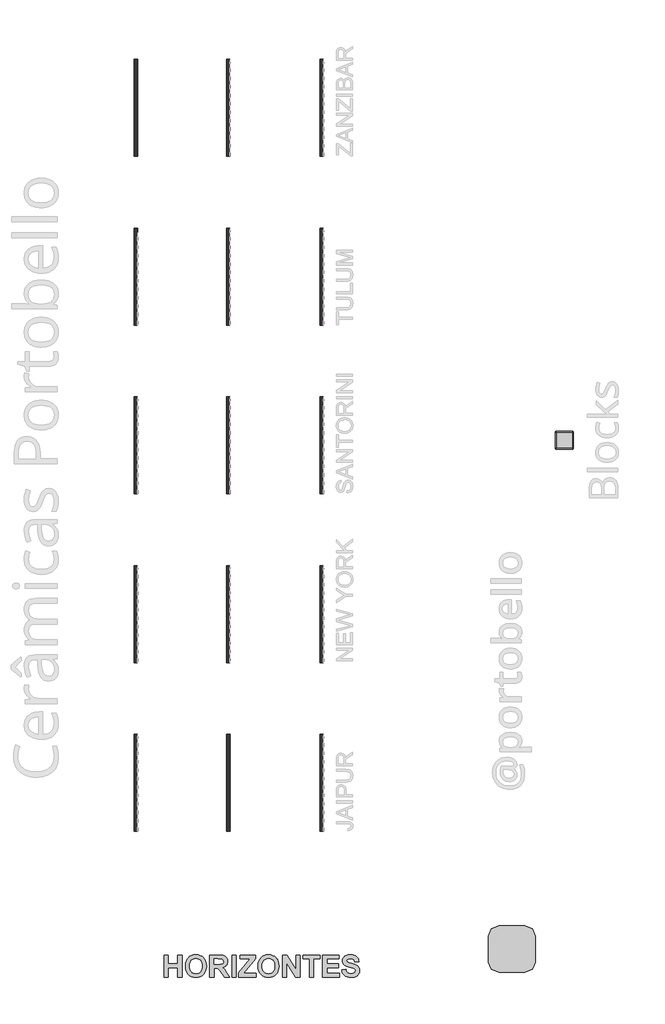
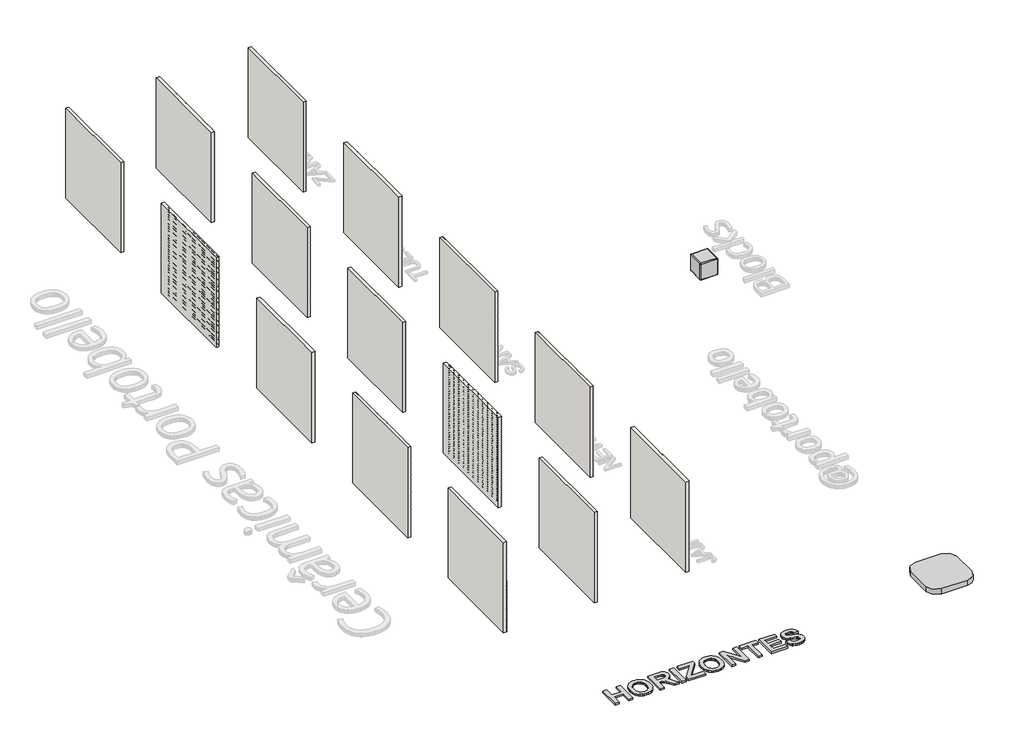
# One storey, part 1 of 45: 90 proxies, 15 walls, 1 furniture element.
"""IFC4 building model written with IfcOpenShell, lengths in millimetres."""

from ifc_helpers import new_model, si_unit, origin, origin_with_axes, place, context, project, spatial, polyline, outline, extrude, transform, mapped, element, save
from components import generic_models_ab0f2c30, generic_models_9f50cdec, branco_22256ad2

model = new_model("IFC4")

# Units and contexts
model_context = context("Model", 3, world=origin())
ifc_project = project(units=[si_unit("LENGTHUNIT", "METRE", prefix="MILLI")], contexts=[model_context])

# Site, building, storey
site = spatial("IfcSite", under=ifc_project)
building = spatial("IfcBuilding", under=site)
storey = spatial("IfcBuildingStorey", under=building, Name="PORTOBELLO - SHOWROOM", Elevation=0.0)

# Proxies
placement = place(None, origin())
generic_models_shape = generic_models_ab0f2c30(model_context)
element("IfcBuildingElementProxy", 1, Name="PBSHOP - HORIZONTES JAIPUR 6,5X23 : JAIPUR CHANDRA", ObjectType="PBSHOP - HORIZONTES JAIPUR 6,5X23 : JAIPUR CHANDRA", at=placement, inside=storey, context=model_context, shape_type="MappedRepresentation", body=[
    mapped(generic_models_shape, transform((63939.1036979, 1103.9760255, 34.5), x_axis=(0.0, 0.0, 1.0), y_axis=(0.0, -1.0, 0.0), z_axis=(1.0, 0.0, 0.0))),
])
element("IfcBuildingElementProxy", 2, Name="PBSHOP - HORIZONTES JAIPUR 6,5X23 : JAIPUR CHANDRA", ObjectType="PBSHOP - HORIZONTES JAIPUR 6,5X23 : JAIPUR CHANDRA", at=placement, inside=storey, context=model_context, shape_type="MappedRepresentation", body=[
    mapped(generic_models_shape, transform((63939.1036979, 1337.9760255, 34.5), x_axis=(0.0, 0.0, 1.0), y_axis=(0.0, -1.0, 0.0), z_axis=(1.0, 0.0, 0.0))),
])
element("IfcBuildingElementProxy", 3, Name="PBSHOP - HORIZONTES JAIPUR 6,5X23 : JAIPUR CHANDRA", ObjectType="PBSHOP - HORIZONTES JAIPUR 6,5X23 : JAIPUR CHANDRA", at=placement, inside=storey, context=model_context, shape_type="MappedRepresentation", body=[
    mapped(generic_models_shape, transform((63939.1036979, 1571.9760255, 34.5), x_axis=(0.0, 0.0, 1.0), y_axis=(0.0, -1.0, 0.0), z_axis=(1.0, 0.0, 0.0))),
])
element("IfcBuildingElementProxy", 4, Name="PBSHOP - HORIZONTES JAIPUR 6,5X23 : JAIPUR CHANDRA", ObjectType="PBSHOP - HORIZONTES JAIPUR 6,5X23 : JAIPUR CHANDRA", at=placement, inside=storey, context=model_context, shape_type="MappedRepresentation", body=[
    mapped(generic_models_shape, transform((63939.1036979, 1805.9760255, 34.5), x_axis=(0.0, 0.0, 1.0), y_axis=(0.0, -1.0, 0.0), z_axis=(1.0, 0.0, 0.0))),
])
element("IfcBuildingElementProxy", 5, Name="PBSHOP - HORIZONTES JAIPUR 6,5X23 : JAIPUR CHANDRA", ObjectType="PBSHOP - HORIZONTES JAIPUR 6,5X23 : JAIPUR CHANDRA", at=placement, inside=storey, context=model_context, shape_type="MappedRepresentation", body=[
    mapped(generic_models_shape, transform((63939.1036979, 1103.9760255, 103.5), x_axis=(0.0, 0.0, 1.0), y_axis=(0.0, -1.0, 0.0), z_axis=(1.0, 0.0, 0.0))),
])
element("IfcBuildingElementProxy", 6, Name="PBSHOP - HORIZONTES JAIPUR 6,5X23 : JAIPUR CHANDRA", ObjectType="PBSHOP - HORIZONTES JAIPUR 6,5X23 : JAIPUR CHANDRA", at=placement, inside=storey, context=model_context, shape_type="MappedRepresentation", body=[
    mapped(generic_models_shape, transform((63939.1036979, 1337.9760255, 103.5), x_axis=(0.0, 0.0, 1.0), y_axis=(0.0, -1.0, 0.0), z_axis=(1.0, 0.0, 0.0))),
])
element("IfcBuildingElementProxy", 7, Name="PBSHOP - HORIZONTES JAIPUR 6,5X23 : JAIPUR CHANDRA", ObjectType="PBSHOP - HORIZONTES JAIPUR 6,5X23 : JAIPUR CHANDRA", at=placement, inside=storey, context=model_context, shape_type="MappedRepresentation", body=[
    mapped(generic_models_shape, transform((63939.1036979, 1571.9760255, 103.5), x_axis=(0.0, 0.0, 1.0), y_axis=(0.0, -1.0, 0.0), z_axis=(1.0, 0.0, 0.0))),
])
element("IfcBuildingElementProxy", 8, Name="PBSHOP - HORIZONTES JAIPUR 6,5X23 : JAIPUR CHANDRA", ObjectType="PBSHOP - HORIZONTES JAIPUR 6,5X23 : JAIPUR CHANDRA", at=placement, inside=storey, context=model_context, shape_type="MappedRepresentation", body=[
    mapped(generic_models_shape, transform((63939.1036979, 1805.9760255, 103.5), x_axis=(0.0, 0.0, 1.0), y_axis=(0.0, -1.0, 0.0), z_axis=(1.0, 0.0, 0.0))),
])
element("IfcBuildingElementProxy", 9, Name="PBSHOP - HORIZONTES JAIPUR 6,5X23 : JAIPUR CHANDRA", ObjectType="PBSHOP - HORIZONTES JAIPUR 6,5X23 : JAIPUR CHANDRA", at=placement, inside=storey, context=model_context, shape_type="MappedRepresentation", body=[
    mapped(generic_models_shape, transform((63939.1036979, 1103.9760255, 172.5), x_axis=(0.0, 0.0, 1.0), y_axis=(0.0, -1.0, 0.0), z_axis=(1.0, 0.0, 0.0))),
])
element("IfcBuildingElementProxy", 10, Name="PBSHOP - HORIZONTES JAIPUR 6,5X23 : JAIPUR CHANDRA", ObjectType="PBSHOP - HORIZONTES JAIPUR 6,5X23 : JAIPUR CHANDRA", at=placement, inside=storey, context=model_context, shape_type="MappedRepresentation", body=[
    mapped(generic_models_shape, transform((63939.1036979, 1337.9760255, 172.5), x_axis=(0.0, 0.0, 1.0), y_axis=(0.0, -1.0, 0.0), z_axis=(1.0, 0.0, 0.0))),
])
element("IfcBuildingElementProxy", 11, Name="PBSHOP - HORIZONTES JAIPUR 6,5X23 : JAIPUR CHANDRA", ObjectType="PBSHOP - HORIZONTES JAIPUR 6,5X23 : JAIPUR CHANDRA", at=placement, inside=storey, context=model_context, shape_type="MappedRepresentation", body=[
    mapped(generic_models_shape, transform((63939.1036979, 1571.9760255, 172.5), x_axis=(0.0, 0.0, 1.0), y_axis=(0.0, -1.0, 0.0), z_axis=(1.0, 0.0, 0.0))),
])
element("IfcBuildingElementProxy", 12, Name="PBSHOP - HORIZONTES JAIPUR 6,5X23 : JAIPUR CHANDRA", ObjectType="PBSHOP - HORIZONTES JAIPUR 6,5X23 : JAIPUR CHANDRA", at=placement, inside=storey, context=model_context, shape_type="MappedRepresentation", body=[
    mapped(generic_models_shape, transform((63939.1036979, 1805.9760255, 172.5), x_axis=(0.0, 0.0, 1.0), y_axis=(0.0, -1.0, 0.0), z_axis=(1.0, 0.0, 0.0))),
])
element("IfcBuildingElementProxy", 13, Name="PBSHOP - HORIZONTES JAIPUR 6,5X23 : JAIPUR CHANDRA", ObjectType="PBSHOP - HORIZONTES JAIPUR 6,5X23 : JAIPUR CHANDRA", at=placement, inside=storey, context=model_context, shape_type="MappedRepresentation", body=[
    mapped(generic_models_shape, transform((63939.1036979, 1103.9760255, 241.5), x_axis=(0.0, 0.0, 1.0), y_axis=(0.0, -1.0, 0.0), z_axis=(1.0, 0.0, 0.0))),
])
element("IfcBuildingElementProxy", 14, Name="PBSHOP - HORIZONTES JAIPUR 6,5X23 : JAIPUR CHANDRA", ObjectType="PBSHOP - HORIZONTES JAIPUR 6,5X23 : JAIPUR CHANDRA", at=placement, inside=storey, context=model_context, shape_type="MappedRepresentation", body=[
    mapped(generic_models_shape, transform((63939.1036979, 1337.9760255, 241.5), x_axis=(0.0, 0.0, 1.0), y_axis=(0.0, -1.0, 0.0), z_axis=(1.0, 0.0, 0.0))),
])
element("IfcBuildingElementProxy", 15, Name="PBSHOP - HORIZONTES JAIPUR 6,5X23 : JAIPUR CHANDRA", ObjectType="PBSHOP - HORIZONTES JAIPUR 6,5X23 : JAIPUR CHANDRA", at=placement, inside=storey, context=model_context, shape_type="MappedRepresentation", body=[
    mapped(generic_models_shape, transform((63939.1036979, 1571.9760255, 241.5), x_axis=(0.0, 0.0, 1.0), y_axis=(0.0, -1.0, 0.0), z_axis=(1.0, 0.0, 0.0))),
])
element("IfcBuildingElementProxy", 16, Name="PBSHOP - HORIZONTES JAIPUR 6,5X23 : JAIPUR CHANDRA", ObjectType="PBSHOP - HORIZONTES JAIPUR 6,5X23 : JAIPUR CHANDRA", at=placement, inside=storey, context=model_context, shape_type="MappedRepresentation", body=[
    mapped(generic_models_shape, transform((63939.1036979, 1805.9760255, 241.5), x_axis=(0.0, 0.0, 1.0), y_axis=(0.0, -1.0, 0.0), z_axis=(1.0, 0.0, 0.0))),
])
element("IfcBuildingElementProxy", 17, Name="PBSHOP - HORIZONTES JAIPUR 6,5X23 : JAIPUR CHANDRA", ObjectType="PBSHOP - HORIZONTES JAIPUR 6,5X23 : JAIPUR CHANDRA", at=placement, inside=storey, context=model_context, shape_type="MappedRepresentation", body=[
    mapped(generic_models_shape, transform((63939.1036979, 1103.9760255, 310.5), x_axis=(0.0, 0.0, 1.0), y_axis=(0.0, -1.0, 0.0), z_axis=(1.0, 0.0, 0.0))),
])
element("IfcBuildingElementProxy", 18, Name="PBSHOP - HORIZONTES JAIPUR 6,5X23 : JAIPUR CHANDRA", ObjectType="PBSHOP - HORIZONTES JAIPUR 6,5X23 : JAIPUR CHANDRA", at=placement, inside=storey, context=model_context, shape_type="MappedRepresentation", body=[
    mapped(generic_models_shape, transform((63939.1036979, 1337.9760255, 310.5), x_axis=(0.0, 0.0, 1.0), y_axis=(0.0, -1.0, 0.0), z_axis=(1.0, 0.0, 0.0))),
])
element("IfcBuildingElementProxy", 19, Name="PBSHOP - HORIZONTES JAIPUR 6,5X23 : JAIPUR CHANDRA", ObjectType="PBSHOP - HORIZONTES JAIPUR 6,5X23 : JAIPUR CHANDRA", at=placement, inside=storey, context=model_context, shape_type="MappedRepresentation", body=[
    mapped(generic_models_shape, transform((63939.1036979, 1571.9760255, 310.5), x_axis=(0.0, 0.0, 1.0), y_axis=(0.0, -1.0, 0.0), z_axis=(1.0, 0.0, 0.0))),
])
element("IfcBuildingElementProxy", 20, Name="PBSHOP - HORIZONTES JAIPUR 6,5X23 : JAIPUR CHANDRA", ObjectType="PBSHOP - HORIZONTES JAIPUR 6,5X23 : JAIPUR CHANDRA", at=placement, inside=storey, context=model_context, shape_type="MappedRepresentation", body=[
    mapped(generic_models_shape, transform((63939.1036979, 1805.9760255, 310.5), x_axis=(0.0, 0.0, 1.0), y_axis=(0.0, -1.0, 0.0), z_axis=(1.0, 0.0, 0.0))),
])
element("IfcBuildingElementProxy", 21, Name="PBSHOP - HORIZONTES JAIPUR 6,5X23 : JAIPUR CHANDRA", ObjectType="PBSHOP - HORIZONTES JAIPUR 6,5X23 : JAIPUR CHANDRA", at=placement, inside=storey, context=model_context, shape_type="MappedRepresentation", body=[
    mapped(generic_models_shape, transform((63939.1036979, 1103.9760255, 379.5), x_axis=(0.0, 0.0, 1.0), y_axis=(0.0, -1.0, 0.0), z_axis=(1.0, 0.0, 0.0))),
])
element("IfcBuildingElementProxy", 22, Name="PBSHOP - HORIZONTES JAIPUR 6,5X23 : JAIPUR CHANDRA", ObjectType="PBSHOP - HORIZONTES JAIPUR 6,5X23 : JAIPUR CHANDRA", at=placement, inside=storey, context=model_context, shape_type="MappedRepresentation", body=[
    mapped(generic_models_shape, transform((63939.1036979, 1337.9760255, 379.5), x_axis=(0.0, 0.0, 1.0), y_axis=(0.0, -1.0, 0.0), z_axis=(1.0, 0.0, 0.0))),
])
element("IfcBuildingElementProxy", 23, Name="PBSHOP - HORIZONTES JAIPUR 6,5X23 : JAIPUR CHANDRA", ObjectType="PBSHOP - HORIZONTES JAIPUR 6,5X23 : JAIPUR CHANDRA", at=placement, inside=storey, context=model_context, shape_type="MappedRepresentation", body=[
    mapped(generic_models_shape, transform((63939.1036979, 1571.9760255, 379.5), x_axis=(0.0, 0.0, 1.0), y_axis=(0.0, -1.0, 0.0), z_axis=(1.0, 0.0, 0.0))),
])
element("IfcBuildingElementProxy", 24, Name="PBSHOP - HORIZONTES JAIPUR 6,5X23 : JAIPUR CHANDRA", ObjectType="PBSHOP - HORIZONTES JAIPUR 6,5X23 : JAIPUR CHANDRA", at=placement, inside=storey, context=model_context, shape_type="MappedRepresentation", body=[
    mapped(generic_models_shape, transform((63939.1036979, 1805.9760255, 379.5), x_axis=(0.0, 0.0, 1.0), y_axis=(0.0, -1.0, 0.0), z_axis=(1.0, 0.0, 0.0))),
])
element("IfcBuildingElementProxy", 25, Name="PBSHOP - HORIZONTES JAIPUR 6,5X23 : JAIPUR CHANDRA", ObjectType="PBSHOP - HORIZONTES JAIPUR 6,5X23 : JAIPUR CHANDRA", at=placement, inside=storey, context=model_context, shape_type="MappedRepresentation", body=[
    mapped(generic_models_shape, transform((63939.1036979, 1103.9760255, 448.5), x_axis=(0.0, 0.0, 1.0), y_axis=(0.0, -1.0, 0.0), z_axis=(1.0, 0.0, 0.0))),
])
element("IfcBuildingElementProxy", 26, Name="PBSHOP - HORIZONTES JAIPUR 6,5X23 : JAIPUR CHANDRA", ObjectType="PBSHOP - HORIZONTES JAIPUR 6,5X23 : JAIPUR CHANDRA", at=placement, inside=storey, context=model_context, shape_type="MappedRepresentation", body=[
    mapped(generic_models_shape, transform((63939.1036979, 1337.9760255, 448.5), x_axis=(0.0, 0.0, 1.0), y_axis=(0.0, -1.0, 0.0), z_axis=(1.0, 0.0, 0.0))),
])
element("IfcBuildingElementProxy", 27, Name="PBSHOP - HORIZONTES JAIPUR 6,5X23 : JAIPUR CHANDRA", ObjectType="PBSHOP - HORIZONTES JAIPUR 6,5X23 : JAIPUR CHANDRA", at=placement, inside=storey, context=model_context, shape_type="MappedRepresentation", body=[
    mapped(generic_models_shape, transform((63939.1036979, 1571.9760255, 448.5), x_axis=(0.0, 0.0, 1.0), y_axis=(0.0, -1.0, 0.0), z_axis=(1.0, 0.0, 0.0))),
])
element("IfcBuildingElementProxy", 28, Name="PBSHOP - HORIZONTES JAIPUR 6,5X23 : JAIPUR CHANDRA", ObjectType="PBSHOP - HORIZONTES JAIPUR 6,5X23 : JAIPUR CHANDRA", at=placement, inside=storey, context=model_context, shape_type="MappedRepresentation", body=[
    mapped(generic_models_shape, transform((63939.1036979, 1805.9760255, 448.5), x_axis=(0.0, 0.0, 1.0), y_axis=(0.0, -1.0, 0.0), z_axis=(1.0, 0.0, 0.0))),
])
element("IfcBuildingElementProxy", 29, Name="PBSHOP - HORIZONTES JAIPUR 6,5X23 : JAIPUR CHANDRA", ObjectType="PBSHOP - HORIZONTES JAIPUR 6,5X23 : JAIPUR CHANDRA", at=placement, inside=storey, context=model_context, shape_type="MappedRepresentation", body=[
    mapped(generic_models_shape, transform((63939.1036979, 1103.9760255, 517.5), x_axis=(0.0, 0.0, 1.0), y_axis=(0.0, -1.0, 0.0), z_axis=(1.0, 0.0, 0.0))),
])
element("IfcBuildingElementProxy", 30, Name="PBSHOP - HORIZONTES JAIPUR 6,5X23 : JAIPUR CHANDRA", ObjectType="PBSHOP - HORIZONTES JAIPUR 6,5X23 : JAIPUR CHANDRA", at=placement, inside=storey, context=model_context, shape_type="MappedRepresentation", body=[
    mapped(generic_models_shape, transform((63939.1036979, 1337.9760255, 517.5), x_axis=(0.0, 0.0, 1.0), y_axis=(0.0, -1.0, 0.0), z_axis=(1.0, 0.0, 0.0))),
])
element("IfcBuildingElementProxy", 31, Name="PBSHOP - HORIZONTES JAIPUR 6,5X23 : JAIPUR CHANDRA", ObjectType="PBSHOP - HORIZONTES JAIPUR 6,5X23 : JAIPUR CHANDRA", at=placement, inside=storey, context=model_context, shape_type="MappedRepresentation", body=[
    mapped(generic_models_shape, transform((63939.1036979, 1571.9760255, 517.5), x_axis=(0.0, 0.0, 1.0), y_axis=(0.0, -1.0, 0.0), z_axis=(1.0, 0.0, 0.0))),
])
element("IfcBuildingElementProxy", 32, Name="PBSHOP - HORIZONTES JAIPUR 6,5X23 : JAIPUR CHANDRA", ObjectType="PBSHOP - HORIZONTES JAIPUR 6,5X23 : JAIPUR CHANDRA", at=placement, inside=storey, context=model_context, shape_type="MappedRepresentation", body=[
    mapped(generic_models_shape, transform((63939.1036979, 1805.9760255, 517.5), x_axis=(0.0, 0.0, 1.0), y_axis=(0.0, -1.0, 0.0), z_axis=(1.0, 0.0, 0.0))),
])
element("IfcBuildingElementProxy", 33, Name="PBSHOP - HORIZONTES JAIPUR 6,5X23 : JAIPUR CHANDRA", ObjectType="PBSHOP - HORIZONTES JAIPUR 6,5X23 : JAIPUR CHANDRA", at=placement, inside=storey, context=model_context, shape_type="MappedRepresentation", body=[
    mapped(generic_models_shape, transform((63939.1036979, 1103.9760255, 586.5), x_axis=(0.0, 0.0, 1.0), y_axis=(0.0, -1.0, 0.0), z_axis=(1.0, 0.0, 0.0))),
])
element("IfcBuildingElementProxy", 34, Name="PBSHOP - HORIZONTES JAIPUR 6,5X23 : JAIPUR CHANDRA", ObjectType="PBSHOP - HORIZONTES JAIPUR 6,5X23 : JAIPUR CHANDRA", at=placement, inside=storey, context=model_context, shape_type="MappedRepresentation", body=[
    mapped(generic_models_shape, transform((63939.1036979, 1337.9760255, 586.5), x_axis=(0.0, 0.0, 1.0), y_axis=(0.0, -1.0, 0.0), z_axis=(1.0, 0.0, 0.0))),
])
element("IfcBuildingElementProxy", 35, Name="PBSHOP - HORIZONTES JAIPUR 6,5X23 : JAIPUR CHANDRA", ObjectType="PBSHOP - HORIZONTES JAIPUR 6,5X23 : JAIPUR CHANDRA", at=placement, inside=storey, context=model_context, shape_type="MappedRepresentation", body=[
    mapped(generic_models_shape, transform((63939.1036979, 1571.9760255, 586.5), x_axis=(0.0, 0.0, 1.0), y_axis=(0.0, -1.0, 0.0), z_axis=(1.0, 0.0, 0.0))),
])
element("IfcBuildingElementProxy", 36, Name="PBSHOP - HORIZONTES JAIPUR 6,5X23 : JAIPUR CHANDRA", ObjectType="PBSHOP - HORIZONTES JAIPUR 6,5X23 : JAIPUR CHANDRA", at=placement, inside=storey, context=model_context, shape_type="MappedRepresentation", body=[
    mapped(generic_models_shape, transform((63939.1036979, 1805.9760255, 586.5), x_axis=(0.0, 0.0, 1.0), y_axis=(0.0, -1.0, 0.0), z_axis=(1.0, 0.0, 0.0))),
])
element("IfcBuildingElementProxy", 37, Name="PBSHOP - HORIZONTES JAIPUR 6,5X23 : JAIPUR CHANDRA", ObjectType="PBSHOP - HORIZONTES JAIPUR 6,5X23 : JAIPUR CHANDRA", at=placement, inside=storey, context=model_context, shape_type="MappedRepresentation", body=[
    mapped(generic_models_shape, transform((63939.1036979, 1103.9760255, 655.5), x_axis=(0.0, 0.0, 1.0), y_axis=(0.0, -1.0, 0.0), z_axis=(1.0, 0.0, 0.0))),
])
element("IfcBuildingElementProxy", 38, Name="PBSHOP - HORIZONTES JAIPUR 6,5X23 : JAIPUR CHANDRA", ObjectType="PBSHOP - HORIZONTES JAIPUR 6,5X23 : JAIPUR CHANDRA", at=placement, inside=storey, context=model_context, shape_type="MappedRepresentation", body=[
    mapped(generic_models_shape, transform((63939.1036979, 1337.9760255, 655.5), x_axis=(0.0, 0.0, 1.0), y_axis=(0.0, -1.0, 0.0), z_axis=(1.0, 0.0, 0.0))),
])
element("IfcBuildingElementProxy", 39, Name="PBSHOP - HORIZONTES JAIPUR 6,5X23 : JAIPUR CHANDRA", ObjectType="PBSHOP - HORIZONTES JAIPUR 6,5X23 : JAIPUR CHANDRA", at=placement, inside=storey, context=model_context, shape_type="MappedRepresentation", body=[
    mapped(generic_models_shape, transform((63939.1036979, 1571.9760255, 655.5), x_axis=(0.0, 0.0, 1.0), y_axis=(0.0, -1.0, 0.0), z_axis=(1.0, 0.0, 0.0))),
])
element("IfcBuildingElementProxy", 40, Name="PBSHOP - HORIZONTES JAIPUR 6,5X23 : JAIPUR CHANDRA", ObjectType="PBSHOP - HORIZONTES JAIPUR 6,5X23 : JAIPUR CHANDRA", at=placement, inside=storey, context=model_context, shape_type="MappedRepresentation", body=[
    mapped(generic_models_shape, transform((63939.1036979, 1805.9760255, 655.5), x_axis=(0.0, 0.0, 1.0), y_axis=(0.0, -1.0, 0.0), z_axis=(1.0, 0.0, 0.0))),
])
element("IfcBuildingElementProxy", 41, Name="PBSHOP - HORIZONTES JAIPUR 6,5X23 : JAIPUR CHANDRA", ObjectType="PBSHOP - HORIZONTES JAIPUR 6,5X23 : JAIPUR CHANDRA", at=placement, inside=storey, context=model_context, shape_type="MappedRepresentation", body=[
    mapped(generic_models_shape, transform((63939.1036979, 1103.9760255, 724.5), x_axis=(0.0, 0.0, 1.0), y_axis=(0.0, -1.0, 0.0), z_axis=(1.0, 0.0, 0.0))),
])
element("IfcBuildingElementProxy", 42, Name="PBSHOP - HORIZONTES JAIPUR 6,5X23 : JAIPUR CHANDRA", ObjectType="PBSHOP - HORIZONTES JAIPUR 6,5X23 : JAIPUR CHANDRA", at=placement, inside=storey, context=model_context, shape_type="MappedRepresentation", body=[
    mapped(generic_models_shape, transform((63939.1036979, 1337.9760255, 724.5), x_axis=(0.0, 0.0, 1.0), y_axis=(0.0, -1.0, 0.0), z_axis=(1.0, 0.0, 0.0))),
])
element("IfcBuildingElementProxy", 43, Name="PBSHOP - HORIZONTES JAIPUR 6,5X23 : JAIPUR CHANDRA", ObjectType="PBSHOP - HORIZONTES JAIPUR 6,5X23 : JAIPUR CHANDRA", at=placement, inside=storey, context=model_context, shape_type="MappedRepresentation", body=[
    mapped(generic_models_shape, transform((63939.1036979, 1571.9760255, 724.5), x_axis=(0.0, 0.0, 1.0), y_axis=(0.0, -1.0, 0.0), z_axis=(1.0, 0.0, 0.0))),
])
element("IfcBuildingElementProxy", 44, Name="PBSHOP - HORIZONTES JAIPUR 6,5X23 : JAIPUR CHANDRA", ObjectType="PBSHOP - HORIZONTES JAIPUR 6,5X23 : JAIPUR CHANDRA", at=placement, inside=storey, context=model_context, shape_type="MappedRepresentation", body=[
    mapped(generic_models_shape, transform((63939.1036979, 1805.9760255, 724.5), x_axis=(0.0, 0.0, 1.0), y_axis=(0.0, -1.0, 0.0), z_axis=(1.0, 0.0, 0.0))),
])
element("IfcBuildingElementProxy", 45, Name="PBSHOP - HORIZONTES JAIPUR 6,5X23 : JAIPUR CHANDRA", ObjectType="PBSHOP - HORIZONTES JAIPUR 6,5X23 : JAIPUR CHANDRA", at=placement, inside=storey, context=model_context, shape_type="MappedRepresentation", body=[
    mapped(generic_models_shape, transform((63939.1036979, 1103.9760255, 793.5), x_axis=(0.0, 0.0, 1.0), y_axis=(0.0, -1.0, 0.0), z_axis=(1.0, 0.0, 0.0))),
])
element("IfcBuildingElementProxy", 46, Name="PBSHOP - HORIZONTES JAIPUR 6,5X23 : JAIPUR CHANDRA", ObjectType="PBSHOP - HORIZONTES JAIPUR 6,5X23 : JAIPUR CHANDRA", at=placement, inside=storey, context=model_context, shape_type="MappedRepresentation", body=[
    mapped(generic_models_shape, transform((63939.1036979, 1337.9760255, 793.5), x_axis=(0.0, 0.0, 1.0), y_axis=(0.0, -1.0, 0.0), z_axis=(1.0, 0.0, 0.0))),
])
element("IfcBuildingElementProxy", 47, Name="PBSHOP - HORIZONTES JAIPUR 6,5X23 : JAIPUR CHANDRA", ObjectType="PBSHOP - HORIZONTES JAIPUR 6,5X23 : JAIPUR CHANDRA", at=placement, inside=storey, context=model_context, shape_type="MappedRepresentation", body=[
    mapped(generic_models_shape, transform((63939.1036979, 1571.9760255, 793.5), x_axis=(0.0, 0.0, 1.0), y_axis=(0.0, -1.0, 0.0), z_axis=(1.0, 0.0, 0.0))),
])
element("IfcBuildingElementProxy", 48, Name="PBSHOP - HORIZONTES JAIPUR 6,5X23 : JAIPUR CHANDRA", ObjectType="PBSHOP - HORIZONTES JAIPUR 6,5X23 : JAIPUR CHANDRA", at=placement, inside=storey, context=model_context, shape_type="MappedRepresentation", body=[
    mapped(generic_models_shape, transform((63939.1036979, 1805.9760255, 793.5), x_axis=(0.0, 0.0, 1.0), y_axis=(0.0, -1.0, 0.0), z_axis=(1.0, 0.0, 0.0))),
])
element("IfcBuildingElementProxy", 49, Name="PBSHOP - HORIZONTES JAIPUR 6,5X23 : JAIPUR CHANDRA", ObjectType="PBSHOP - HORIZONTES JAIPUR 6,5X23 : JAIPUR CHANDRA", at=placement, inside=storey, context=model_context, shape_type="MappedRepresentation", body=[
    mapped(generic_models_shape, transform((63939.1036979, 1103.9760255, 862.5), x_axis=(0.0, 0.0, 1.0), y_axis=(0.0, -1.0, 0.0), z_axis=(1.0, 0.0, 0.0))),
])
element("IfcBuildingElementProxy", 50, Name="PBSHOP - HORIZONTES JAIPUR 6,5X23 : JAIPUR CHANDRA", ObjectType="PBSHOP - HORIZONTES JAIPUR 6,5X23 : JAIPUR CHANDRA", at=placement, inside=storey, context=model_context, shape_type="MappedRepresentation", body=[
    mapped(generic_models_shape, transform((63939.1036979, 1337.9760255, 862.5), x_axis=(0.0, 0.0, 1.0), y_axis=(0.0, -1.0, 0.0), z_axis=(1.0, 0.0, 0.0))),
])
element("IfcBuildingElementProxy", 51, Name="PBSHOP - HORIZONTES JAIPUR 6,5X23 : JAIPUR CHANDRA", ObjectType="PBSHOP - HORIZONTES JAIPUR 6,5X23 : JAIPUR CHANDRA", at=placement, inside=storey, context=model_context, shape_type="MappedRepresentation", body=[
    mapped(generic_models_shape, transform((63939.1036979, 1571.9760255, 862.5), x_axis=(0.0, 0.0, 1.0), y_axis=(0.0, -1.0, 0.0), z_axis=(1.0, 0.0, 0.0))),
])
element("IfcBuildingElementProxy", 52, Name="PBSHOP - HORIZONTES JAIPUR 6,5X23 : JAIPUR CHANDRA", ObjectType="PBSHOP - HORIZONTES JAIPUR 6,5X23 : JAIPUR CHANDRA", at=placement, inside=storey, context=model_context, shape_type="MappedRepresentation", body=[
    mapped(generic_models_shape, transform((63939.1036979, 1805.9760255, 862.5), x_axis=(0.0, 0.0, 1.0), y_axis=(0.0, -1.0, 0.0), z_axis=(1.0, 0.0, 0.0))),
])
element("IfcBuildingElementProxy", 53, Name="PBSHOP - HORIZONTES JAIPUR 6,5X23 : JAIPUR CHANDRA", ObjectType="PBSHOP - HORIZONTES JAIPUR 6,5X23 : JAIPUR CHANDRA", at=placement, inside=storey, context=model_context, shape_type="MappedRepresentation", body=[
    mapped(generic_models_shape, transform((63939.1036979, 1103.9760255, 931.5), x_axis=(0.0, 0.0, 1.0), y_axis=(0.0, -1.0, 0.0), z_axis=(1.0, 0.0, 0.0))),
])
element("IfcBuildingElementProxy", 54, Name="PBSHOP - HORIZONTES JAIPUR 6,5X23 : JAIPUR CHANDRA", ObjectType="PBSHOP - HORIZONTES JAIPUR 6,5X23 : JAIPUR CHANDRA", at=placement, inside=storey, context=model_context, shape_type="MappedRepresentation", body=[
    mapped(generic_models_shape, transform((63939.1036979, 1337.9760255, 931.5), x_axis=(0.0, 0.0, 1.0), y_axis=(0.0, -1.0, 0.0), z_axis=(1.0, 0.0, 0.0))),
])
element("IfcBuildingElementProxy", 55, Name="PBSHOP - HORIZONTES JAIPUR 6,5X23 : JAIPUR CHANDRA", ObjectType="PBSHOP - HORIZONTES JAIPUR 6,5X23 : JAIPUR CHANDRA", at=placement, inside=storey, context=model_context, shape_type="MappedRepresentation", body=[
    mapped(generic_models_shape, transform((63939.1036979, 1571.9760255, 931.5), x_axis=(0.0, 0.0, 1.0), y_axis=(0.0, -1.0, 0.0), z_axis=(1.0, 0.0, 0.0))),
])
element("IfcBuildingElementProxy", 56, Name="PBSHOP - HORIZONTES JAIPUR 6,5X23 : JAIPUR CHANDRA", ObjectType="PBSHOP - HORIZONTES JAIPUR 6,5X23 : JAIPUR CHANDRA", at=placement, inside=storey, context=model_context, shape_type="MappedRepresentation", body=[
    mapped(generic_models_shape, transform((63939.1036979, 1805.9760255, 931.5), x_axis=(0.0, 0.0, 1.0), y_axis=(0.0, -1.0, 0.0), z_axis=(1.0, 0.0, 0.0))),
])
element("IfcBuildingElementProxy", 57, Name="PBSHOP - HORIZONTES JAIPUR 6,5X23 : JAIPUR CHANDRA", ObjectType="PBSHOP - HORIZONTES JAIPUR 6,5X23 : JAIPUR CHANDRA", at=placement, inside=storey, context=model_context, shape_type="MappedRepresentation", body=[
    mapped(generic_models_shape, transform((63939.1036979, 1103.9760255, 1000.5), x_axis=(0.0, 0.0, 1.0), y_axis=(0.0, -1.0, 0.0), z_axis=(1.0, 0.0, 0.0))),
])
element("IfcBuildingElementProxy", 58, Name="PBSHOP - HORIZONTES JAIPUR 6,5X23 : JAIPUR CHANDRA", ObjectType="PBSHOP - HORIZONTES JAIPUR 6,5X23 : JAIPUR CHANDRA", at=placement, inside=storey, context=model_context, shape_type="MappedRepresentation", body=[
    mapped(generic_models_shape, transform((63939.1036979, 1337.9760255, 1000.5), x_axis=(0.0, 0.0, 1.0), y_axis=(0.0, -1.0, 0.0), z_axis=(1.0, 0.0, 0.0))),
])
element("IfcBuildingElementProxy", 59, Name="PBSHOP - HORIZONTES JAIPUR 6,5X23 : JAIPUR CHANDRA", ObjectType="PBSHOP - HORIZONTES JAIPUR 6,5X23 : JAIPUR CHANDRA", at=placement, inside=storey, context=model_context, shape_type="MappedRepresentation", body=[
    mapped(generic_models_shape, transform((63939.1036979, 1571.9760255, 1000.5), x_axis=(0.0, 0.0, 1.0), y_axis=(0.0, -1.0, 0.0), z_axis=(1.0, 0.0, 0.0))),
])
element("IfcBuildingElementProxy", 60, Name="PBSHOP - HORIZONTES JAIPUR 6,5X23 : JAIPUR CHANDRA", ObjectType="PBSHOP - HORIZONTES JAIPUR 6,5X23 : JAIPUR CHANDRA", at=placement, inside=storey, context=model_context, shape_type="MappedRepresentation", body=[
    mapped(generic_models_shape, transform((63939.1036979, 1805.9760255, 1000.5), x_axis=(0.0, 0.0, 1.0), y_axis=(0.0, -1.0, 0.0), z_axis=(1.0, 0.0, 0.0))),
])
element("IfcBuildingElementProxy", 61, Name="PBSHOP - HORIZONTES JAIPUR 6,5X23 : JAIPUR CHANDRA", ObjectType="PBSHOP - HORIZONTES JAIPUR 6,5X23 : JAIPUR CHANDRA", at=placement, inside=storey, context=model_context, shape_type="MappedRepresentation", body=[
    mapped(generic_models_shape, transform((63939.1036979, 1103.9760255, 1069.5), x_axis=(0.0, 0.0, 1.0), y_axis=(0.0, -1.0, 0.0), z_axis=(1.0, 0.0, 0.0))),
])
element("IfcBuildingElementProxy", 62, Name="PBSHOP - HORIZONTES JAIPUR 6,5X23 : JAIPUR CHANDRA", ObjectType="PBSHOP - HORIZONTES JAIPUR 6,5X23 : JAIPUR CHANDRA", at=placement, inside=storey, context=model_context, shape_type="MappedRepresentation", body=[
    mapped(generic_models_shape, transform((63939.1036979, 1337.9760255, 1069.5), x_axis=(0.0, 0.0, 1.0), y_axis=(0.0, -1.0, 0.0), z_axis=(1.0, 0.0, 0.0))),
])
element("IfcBuildingElementProxy", 63, Name="PBSHOP - HORIZONTES JAIPUR 6,5X23 : JAIPUR CHANDRA", ObjectType="PBSHOP - HORIZONTES JAIPUR 6,5X23 : JAIPUR CHANDRA", at=placement, inside=storey, context=model_context, shape_type="MappedRepresentation", body=[
    mapped(generic_models_shape, transform((63939.1036979, 1571.9760255, 1069.5), x_axis=(0.0, 0.0, 1.0), y_axis=(0.0, -1.0, 0.0), z_axis=(1.0, 0.0, 0.0))),
])
element("IfcBuildingElementProxy", 64, Name="PBSHOP - HORIZONTES JAIPUR 6,5X23 : JAIPUR CHANDRA", ObjectType="PBSHOP - HORIZONTES JAIPUR 6,5X23 : JAIPUR CHANDRA", at=placement, inside=storey, context=model_context, shape_type="MappedRepresentation", body=[
    mapped(generic_models_shape, transform((63939.1036979, 1805.9760255, 1069.5), x_axis=(0.0, 0.0, 1.0), y_axis=(0.0, -1.0, 0.0), z_axis=(1.0, 0.0, 0.0))),
])
element("IfcBuildingElementProxy", 65, Name="PBSHOP - HORIZONTES JAIPUR 6,5X23 : JAIPUR CHANDRA", ObjectType="PBSHOP - HORIZONTES JAIPUR 6,5X23 : JAIPUR CHANDRA", at=placement, inside=storey, context=model_context, shape_type="MappedRepresentation", body=[
    mapped(generic_models_shape, transform((63939.1036979, 1103.9760255, 1138.5), x_axis=(0.0, 0.0, 1.0), y_axis=(0.0, -1.0, 0.0), z_axis=(1.0, 0.0, 0.0))),
])
element("IfcBuildingElementProxy", 66, Name="PBSHOP - HORIZONTES JAIPUR 6,5X23 : JAIPUR CHANDRA", ObjectType="PBSHOP - HORIZONTES JAIPUR 6,5X23 : JAIPUR CHANDRA", at=placement, inside=storey, context=model_context, shape_type="MappedRepresentation", body=[
    mapped(generic_models_shape, transform((63939.1036979, 1337.9760255, 1138.5), x_axis=(0.0, 0.0, 1.0), y_axis=(0.0, -1.0, 0.0), z_axis=(1.0, 0.0, 0.0))),
])
element("IfcBuildingElementProxy", 67, Name="PBSHOP - HORIZONTES JAIPUR 6,5X23 : JAIPUR CHANDRA", ObjectType="PBSHOP - HORIZONTES JAIPUR 6,5X23 : JAIPUR CHANDRA", at=placement, inside=storey, context=model_context, shape_type="MappedRepresentation", body=[
    mapped(generic_models_shape, transform((63939.1036979, 1571.9760255, 1138.5), x_axis=(0.0, 0.0, 1.0), y_axis=(0.0, -1.0, 0.0), z_axis=(1.0, 0.0, 0.0))),
])
element("IfcBuildingElementProxy", 68, Name="PBSHOP - HORIZONTES JAIPUR 6,5X23 : JAIPUR CHANDRA", ObjectType="PBSHOP - HORIZONTES JAIPUR 6,5X23 : JAIPUR CHANDRA", at=placement, inside=storey, context=model_context, shape_type="MappedRepresentation", body=[
    mapped(generic_models_shape, transform((63939.1036979, 1805.9760255, 1138.5), x_axis=(0.0, 0.0, 1.0), y_axis=(0.0, -1.0, 0.0), z_axis=(1.0, 0.0, 0.0))),
])
element("IfcBuildingElementProxy", 69, Name="PBSHOP - HORIZONTES JAIPUR 6,5X23 : JAIPUR CHANDRA", ObjectType="PBSHOP - HORIZONTES JAIPUR 6,5X23 : JAIPUR CHANDRA", at=placement, inside=storey, context=model_context, shape_type="MappedRepresentation", body=[
    mapped(generic_models_shape, transform((63939.1036979, 1103.9760255, 1207.5), x_axis=(0.0, 0.0, 1.0), y_axis=(0.0, -1.0, 0.0), z_axis=(1.0, 0.0, 0.0))),
])
element("IfcBuildingElementProxy", 70, Name="PBSHOP - HORIZONTES JAIPUR 6,5X23 : JAIPUR CHANDRA", ObjectType="PBSHOP - HORIZONTES JAIPUR 6,5X23 : JAIPUR CHANDRA", at=placement, inside=storey, context=model_context, shape_type="MappedRepresentation", body=[
    mapped(generic_models_shape, transform((63939.1036979, 1337.9760255, 1207.5), x_axis=(0.0, 0.0, 1.0), y_axis=(0.0, -1.0, 0.0), z_axis=(1.0, 0.0, 0.0))),
])
element("IfcBuildingElementProxy", 71, Name="PBSHOP - HORIZONTES JAIPUR 6,5X23 : JAIPUR CHANDRA", ObjectType="PBSHOP - HORIZONTES JAIPUR 6,5X23 : JAIPUR CHANDRA", at=placement, inside=storey, context=model_context, shape_type="MappedRepresentation", body=[
    mapped(generic_models_shape, transform((63939.1036979, 1571.9760255, 1207.5), x_axis=(0.0, 0.0, 1.0), y_axis=(0.0, -1.0, 0.0), z_axis=(1.0, 0.0, 0.0))),
])
element("IfcBuildingElementProxy", 72, Name="PBSHOP - HORIZONTES JAIPUR 6,5X23 : JAIPUR CHANDRA", ObjectType="PBSHOP - HORIZONTES JAIPUR 6,5X23 : JAIPUR CHANDRA", at=placement, inside=storey, context=model_context, shape_type="MappedRepresentation", body=[
    mapped(generic_models_shape, transform((63939.1036979, 1805.9760255, 1207.5), x_axis=(0.0, 0.0, 1.0), y_axis=(0.0, -1.0, 0.0), z_axis=(1.0, 0.0, 0.0))),
])
element("IfcBuildingElementProxy", 73, Name="PBSHOP - HORIZONTES JAIPUR 6,5X23 : JAIPUR CHANDRA", ObjectType="PBSHOP - HORIZONTES JAIPUR 6,5X23 : JAIPUR CHANDRA", at=placement, inside=storey, context=model_context, shape_type="MappedRepresentation", body=[
    mapped(generic_models_shape, transform((63939.1036979, 1103.9760255, 1276.5), x_axis=(0.0, 0.0, 1.0), y_axis=(0.0, -1.0, 0.0), z_axis=(1.0, 0.0, 0.0))),
])
element("IfcBuildingElementProxy", 74, Name="PBSHOP - HORIZONTES JAIPUR 6,5X23 : JAIPUR CHANDRA", ObjectType="PBSHOP - HORIZONTES JAIPUR 6,5X23 : JAIPUR CHANDRA", at=placement, inside=storey, context=model_context, shape_type="MappedRepresentation", body=[
    mapped(generic_models_shape, transform((63939.1036979, 1337.9760255, 1276.5), x_axis=(0.0, 0.0, 1.0), y_axis=(0.0, -1.0, 0.0), z_axis=(1.0, 0.0, 0.0))),
])
element("IfcBuildingElementProxy", 75, Name="PBSHOP - HORIZONTES JAIPUR 6,5X23 : JAIPUR CHANDRA", ObjectType="PBSHOP - HORIZONTES JAIPUR 6,5X23 : JAIPUR CHANDRA", at=placement, inside=storey, context=model_context, shape_type="MappedRepresentation", body=[
    mapped(generic_models_shape, transform((63939.1036979, 1571.9760255, 1276.5), x_axis=(0.0, 0.0, 1.0), y_axis=(0.0, -1.0, 0.0), z_axis=(1.0, 0.0, 0.0))),
])
element("IfcBuildingElementProxy", 76, Name="PBSHOP - HORIZONTES JAIPUR 6,5X23 : JAIPUR CHANDRA", ObjectType="PBSHOP - HORIZONTES JAIPUR 6,5X23 : JAIPUR CHANDRA", at=placement, inside=storey, context=model_context, shape_type="MappedRepresentation", body=[
    mapped(generic_models_shape, transform((63939.1036979, 1805.9760255, 1276.5), x_axis=(0.0, 0.0, 1.0), y_axis=(0.0, -1.0, 0.0), z_axis=(1.0, 0.0, 0.0))),
])
element("IfcBuildingElementProxy", 77, Name="PBSHOP - HORIZONTES JAIPUR 6,5X23 : JAIPUR CHANDRA", ObjectType="PBSHOP - HORIZONTES JAIPUR 6,5X23 : JAIPUR CHANDRA", at=placement, inside=storey, context=model_context, shape_type="MappedRepresentation", body=[
    mapped(generic_models_shape, transform((63939.1036979, 1103.9760255, 1345.5), x_axis=(0.0, 0.0, 1.0), y_axis=(0.0, -1.0, 0.0), z_axis=(1.0, 0.0, 0.0))),
])
element("IfcBuildingElementProxy", 78, Name="PBSHOP - HORIZONTES JAIPUR 6,5X23 : JAIPUR CHANDRA", ObjectType="PBSHOP - HORIZONTES JAIPUR 6,5X23 : JAIPUR CHANDRA", at=placement, inside=storey, context=model_context, shape_type="MappedRepresentation", body=[
    mapped(generic_models_shape, transform((63939.1036979, 1337.9760255, 1345.5), x_axis=(0.0, 0.0, 1.0), y_axis=(0.0, -1.0, 0.0), z_axis=(1.0, 0.0, 0.0))),
])
element("IfcBuildingElementProxy", 79, Name="PBSHOP - HORIZONTES JAIPUR 6,5X23 : JAIPUR CHANDRA", ObjectType="PBSHOP - HORIZONTES JAIPUR 6,5X23 : JAIPUR CHANDRA", at=placement, inside=storey, context=model_context, shape_type="MappedRepresentation", body=[
    mapped(generic_models_shape, transform((63939.1036979, 1571.9760255, 1345.5), x_axis=(0.0, 0.0, 1.0), y_axis=(0.0, -1.0, 0.0), z_axis=(1.0, 0.0, 0.0))),
])
element("IfcBuildingElementProxy", 80, Name="PBSHOP - HORIZONTES JAIPUR 6,5X23 : JAIPUR CHANDRA", ObjectType="PBSHOP - HORIZONTES JAIPUR 6,5X23 : JAIPUR CHANDRA", at=placement, inside=storey, context=model_context, shape_type="MappedRepresentation", body=[
    mapped(generic_models_shape, transform((63939.1036979, 1805.9760255, 1345.5), x_axis=(0.0, 0.0, 1.0), y_axis=(0.0, -1.0, 0.0), z_axis=(1.0, 0.0, 0.0))),
])
element("IfcBuildingElementProxy", 81, Name="PBSHOP - HORIZONTES JAIPUR 6,5X23 : JAIPUR CHANDRA", ObjectType="PBSHOP - HORIZONTES JAIPUR 6,5X23 : JAIPUR CHANDRA", at=placement, inside=storey, context=model_context, shape_type="MappedRepresentation", body=[
    mapped(generic_models_shape, transform((63939.1036979, 1103.9760255, 1414.5), x_axis=(0.0, 0.0, 1.0), y_axis=(0.0, -1.0, 0.0), z_axis=(1.0, 0.0, 0.0))),
])
element("IfcBuildingElementProxy", 82, Name="PBSHOP - HORIZONTES JAIPUR 6,5X23 : JAIPUR CHANDRA", ObjectType="PBSHOP - HORIZONTES JAIPUR 6,5X23 : JAIPUR CHANDRA", at=placement, inside=storey, context=model_context, shape_type="MappedRepresentation", body=[
    mapped(generic_models_shape, transform((63939.1036979, 1337.9760255, 1414.5), x_axis=(0.0, 0.0, 1.0), y_axis=(0.0, -1.0, 0.0), z_axis=(1.0, 0.0, 0.0))),
])
element("IfcBuildingElementProxy", 83, Name="PBSHOP - HORIZONTES JAIPUR 6,5X23 : JAIPUR CHANDRA", ObjectType="PBSHOP - HORIZONTES JAIPUR 6,5X23 : JAIPUR CHANDRA", at=placement, inside=storey, context=model_context, shape_type="MappedRepresentation", body=[
    mapped(generic_models_shape, transform((63939.1036979, 1571.9760255, 1414.5), x_axis=(0.0, 0.0, 1.0), y_axis=(0.0, -1.0, 0.0), z_axis=(1.0, 0.0, 0.0))),
])
element("IfcBuildingElementProxy", 84, Name="PBSHOP - HORIZONTES JAIPUR 6,5X23 : JAIPUR CHANDRA", ObjectType="PBSHOP - HORIZONTES JAIPUR 6,5X23 : JAIPUR CHANDRA", at=placement, inside=storey, context=model_context, shape_type="MappedRepresentation", body=[
    mapped(generic_models_shape, transform((63939.1036979, 1805.9760255, 1414.5), x_axis=(0.0, 0.0, 1.0), y_axis=(0.0, -1.0, 0.0), z_axis=(1.0, 0.0, 0.0))),
])
element("IfcBuildingElementProxy", 85, Name="PBSHOP - HORIZONTES JAIPUR 6,5X23 : JAIPUR CHANDRA", ObjectType="PBSHOP - HORIZONTES JAIPUR 6,5X23 : JAIPUR CHANDRA", at=placement, inside=storey, context=model_context, shape_type="MappedRepresentation", body=[
    mapped(generic_models_shape, transform((63939.1036979, 1103.9760255, 1483.5), x_axis=(0.0, 0.0, 1.0), y_axis=(0.0, -1.0, 0.0), z_axis=(1.0, 0.0, 0.0))),
])
element("IfcBuildingElementProxy", 86, Name="PBSHOP - HORIZONTES JAIPUR 6,5X23 : JAIPUR CHANDRA", ObjectType="PBSHOP - HORIZONTES JAIPUR 6,5X23 : JAIPUR CHANDRA", at=placement, inside=storey, context=model_context, shape_type="MappedRepresentation", body=[
    mapped(generic_models_shape, transform((63939.1036979, 1337.9760255, 1483.5), x_axis=(0.0, 0.0, 1.0), y_axis=(0.0, -1.0, 0.0), z_axis=(1.0, 0.0, 0.0))),
])
element("IfcBuildingElementProxy", 87, Name="PBSHOP - HORIZONTES JAIPUR 6,5X23 : JAIPUR CHANDRA", ObjectType="PBSHOP - HORIZONTES JAIPUR 6,5X23 : JAIPUR CHANDRA", at=placement, inside=storey, context=model_context, shape_type="MappedRepresentation", body=[
    mapped(generic_models_shape, transform((63939.1036979, 1571.9760255, 1483.5), x_axis=(0.0, 0.0, 1.0), y_axis=(0.0, -1.0, 0.0), z_axis=(1.0, 0.0, 0.0))),
])
element("IfcBuildingElementProxy", 88, Name="PBSHOP - HORIZONTES JAIPUR 6,5X23 : JAIPUR CHANDRA", ObjectType="PBSHOP - HORIZONTES JAIPUR 6,5X23 : JAIPUR CHANDRA", at=placement, inside=storey, context=model_context, shape_type="MappedRepresentation", body=[
    mapped(generic_models_shape, transform((63939.1036979, 1805.9760255, 1483.5), x_axis=(0.0, 0.0, 1.0), y_axis=(0.0, -1.0, 0.0), z_axis=(1.0, 0.0, 0.0))),
])
generic_models_2_shape = generic_models_9f50cdec(model_context)
element("IfcBuildingElementProxy", 89, Name="Blks_Instagram : Único", ObjectType="Blks_Instagram : Único", at=placement, inside=storey, context=model_context, shape_type="MappedRepresentation", body=[
    mapped(generic_models_2_shape, transform((74360.7786861, -2289.8397148, 0.0), x_axis=(1.0, 0.0, 0.0), y_axis=(0.0, 1.0, 0.0), z_axis=(0.0, 0.0, 1.0))),
])
element("IfcBuildingElementProxy", 90, Name="600mm Arial", ObjectType="600mm Arial", at=placement, inside=storey, context=model_context, shape_type="SweptSolid", body=[
    extrude(outline(polyline([(64679.5606369, -3069.5919435), (64679.5606369, -2457.4363036), (64796.1617111, -2457.4363036), (64796.1617111, -2700.3552083), (65058.5141283, -2700.3552083), (65058.5141283, -2457.4363036), (65175.1152026, -2457.4363036), (65175.1152026, -3069.5919435), (65058.5141283, -3069.5919435), (65058.5141283, -2807.2395264), (64796.1617111, -2807.2395264), (64796.1617111, -3069.5919435), (64679.5606369, -3069.5919435)])), origin_with_axes(), (0.0, 0.0, 1.0), 50.0),
    extrude(outline(polyline([(65272.2827645, -2767.3097314), (65274.000277, -2722.5025803), (65279.1528147, -2681.453081), (65287.7403776, -2644.1612336), (65299.7629656, -2610.6270379), (65323.9979219, -2566.389228), (65355.7102258, -2526.8959279), (65392.850249, -2494.5763267), (65433.3683632, -2471.8596135), (65462.5376098, -2461.2983346), (65493.8703529, -2453.7545639), (65527.3665925, -2449.2283015), (65563.0263286, -2447.7195474), (65626.1283097, -2452.9527417), (65682.587977, -2468.6523249), (65732.4053305, -2494.8182967), (65775.5803702, -2531.4506574), (65794.2618778, -2553.4046906), (65810.4525177, -2577.4012353), (65835.3611945, -2631.5218593), (65850.3064005, -2693.8125292), (65855.2881359, -2764.2732451), (65850.3443566, -2834.2547655), (65835.5130188, -2896.1706192), (65810.7941224, -2950.0208061), (65794.7268398, -2973.9212745), (65776.1876675, -2995.8053262), (65733.2972984, -3032.3380521), (65683.7266594, -3058.4328564), (65627.4757505, -3074.0897389), (65564.5445717, -3079.3086997), (65500.9491616, -3074.1134614), (65444.2238017, -3058.5277466), (65394.3684921, -3032.5515551), (65351.3832328, -2996.184887), (65316.7767779, -2950.70876), (65292.0578816, -2897.4041918), (65277.2265437, -2836.2711822), (65272.2827645, -2767.3097314)]), holes=[polyline([(65388.8838387, -2763.0586506), (65391.9820037, -2811.4811182), (65401.2764985, -2853.6598109), (65416.7673232, -2889.5947285), (65438.4544777, -2919.2858712), (65464.9146092, -2942.5339695), (65494.7243647, -2959.139754), (65527.8837441, -2969.1032247), (65564.3927474, -2972.4243816), (65600.8637947, -2969.1269473), (65633.9093059, -2959.2346442), (65663.5292809, -2942.7474725), (65689.7237198, -2919.665432), (65711.1451819, -2889.9885228), (65726.4462262, -2853.716745), (65735.6268527, -2810.8500984), (65738.6870616, -2761.3885831), (65735.7075094, -2712.6150218), (65726.7688528, -2670.4458182), (65711.8710919, -2634.8809723), (65691.0142265, -2605.9204841), (65665.2230709, -2583.4694634), (65635.5224392, -2567.4330201), (65601.9123314, -2557.8111541), (65564.3927474, -2554.6038655), (65526.8352074, -2557.8491102), (65493.1112313, -2567.5848444), (65463.2208192, -2583.8110682), (65437.1639711, -2606.5277814), (65416.0414132, -2635.7824291), (65400.9538718, -2671.6224566), (65391.901347, -2714.0478638), (65388.8838387, -2763.0586506)])]), origin_with_axes(), (0.0, 0.0, 1.0), 50.0),
    extrude(outline(polyline([(65952.4556978, -3069.5919435), (65952.4556978, -2457.4363036), (66209.9497368, -2457.4363036), (66293.8326711, -2461.5735162), (66325.8106675, -2466.7450319), (66351.1463502, -2473.985154), (66372.0601496, -2483.8727125), (66390.7724965, -2496.9865377), (66407.2833908, -2513.3266297), (66421.5928326, -2532.8929884), (66433.1504586, -2554.841091), (66441.4059057, -2578.3264148), (66446.359174, -2603.3489598), (66448.0102635, -2629.9087259), (66445.623775, -2663.0159157), (66438.4643096, -2693.1055973), (66426.5318673, -2720.1777705), (66409.8264481, -2744.2324355), (66388.36703, -2764.690762), (66362.1725911, -2780.9739198), (66331.2431313, -2793.081909), (66295.5786507, -2801.0147295), (66329.397517, -2825.3825321), (66356.7638499, -2852.0276995), (66385.0790847, -2890.6290317), (66421.7446569, -2950.8653288), (66496.5940444, -3069.5919435), (66360.4076334, -3069.5919435), (66271.7422332, -2929.761749), (66228.9087982, -2876.0728754), (66202.1307846, -2846.7897606), (66182.8111404, -2832.3854287), (66162.3528139, -2823.3329038), (66135.1952395, -2818.5504379), (66095.7778516, -2816.9562826), (66069.056772, -2816.9562826), (66069.056772, -3069.5919435), (65952.4556978, -3069.5919435)]), holes=[polyline([(66069.056772, -2710.0719645), (66165.1615637, -2710.0719645), (66241.0167874, -2708.3070068), (66281.8385502, -2703.0121338), (66302.6005253, -2693.4092459), (66318.2763859, -2678.7202434), (66328.1259884, -2659.3436651), (66331.4091892, -2635.6780499), (66327.0821962, -2609.4693775), (66314.1012172, -2588.8402486), (66293.2253738, -2574.2840924), (66265.2137876, -2566.2943378), (66170.4754148, -2564.3206217), (66069.056772, -2564.3206217), (66069.056772, -2710.0719645)])]), origin_with_axes(), (0.0, 0.0, 1.0), 50.0),
    extrude(outline(polyline([(66564.6113377, -3069.5919435), (66564.6113377, -2457.4363036), (66681.212412, -2457.4363036), (66681.212412, -3069.5919435), (66564.6113377, -3069.5919435)])), origin_with_axes(), (0.0, 0.0, 1.0), 50.0),
    extrude(outline(polyline([(66749.2297054, -3069.5919435), (66749.2297054, -2952.9908693), (67077.3220511, -2564.3206217), (66788.0967301, -2564.3206217), (66788.0967301, -2457.4363036), (67225.3507587, -2457.4363036), (67225.3507587, -2564.3206217), (66889.0598999, -2962.7076254), (67235.0675149, -2962.7076254), (67235.0675149, -3069.5919435), (66749.2297054, -3069.5919435)])), origin_with_axes(), (0.0, 0.0, 1.0), 50.0),
    extrude(outline(polyline([(67293.368052, -2767.3097314), (67295.0855646, -2722.5025803), (67300.2381023, -2681.453081), (67308.8256651, -2644.1612336), (67320.8482531, -2610.6270379), (67345.0832095, -2566.389228), (67376.7955133, -2526.8959279), (67413.9355365, -2494.5763267), (67454.4536507, -2471.8596135), (67483.6228973, -2461.2983346), (67514.9556404, -2453.7545639), (67548.45188, -2449.2283015), (67584.1116161, -2447.7195474), (67647.2135972, -2452.9527417), (67703.6732646, -2468.6523249), (67753.4906181, -2494.8182967), (67796.6656578, -2531.4506574), (67815.3471653, -2553.4046906), (67831.5378052, -2577.4012353), (67856.446482, -2631.5218593), (67871.391688, -2693.8125292), (67876.3734234, -2764.2732451), (67871.4296441, -2834.2547655), (67856.5983063, -2896.1706192), (67831.8794099, -2950.0208061), (67815.8121273, -2973.9212745), (67797.272955, -2995.8053262), (67754.3825859, -3032.3380521), (67704.8119469, -3058.4328564), (67648.561038, -3074.0897389), (67585.6298593, -3079.3086997), (67522.0344491, -3074.1134614), (67465.3090893, -3058.5277466), (67415.4537797, -3032.5515551), (67372.4685204, -2996.184887), (67337.8620654, -2950.70876), (67313.1431691, -2897.4041918), (67298.3118313, -2836.2711822), (67293.368052, -2767.3097314)]), holes=[polyline([(67409.9691263, -2763.0586506), (67413.0672912, -2811.4811182), (67422.361786, -2853.6598109), (67437.8526107, -2889.5947285), (67459.5397653, -2919.2858712), (67485.9998968, -2942.5339695), (67515.8096522, -2959.139754), (67548.9690316, -2969.1032247), (67585.478035, -2972.4243816), (67621.9490822, -2969.1269473), (67654.9945934, -2959.2346442), (67684.6145685, -2942.7474725), (67710.8090074, -2919.665432), (67732.2304694, -2889.9885228), (67747.5315137, -2853.716745), (67756.7121403, -2810.8500984), (67759.7723491, -2761.3885831), (67756.7927969, -2712.6150218), (67747.8541404, -2670.4458182), (67732.9563794, -2634.8809723), (67712.0995141, -2605.9204841), (67686.3083585, -2583.4694634), (67656.6077268, -2567.4330201), (67622.9976189, -2557.8111541), (67585.478035, -2554.6038655), (67547.9204949, -2557.8491102), (67514.1965188, -2567.5848444), (67484.3061067, -2583.8110682), (67458.2492586, -2606.5277814), (67437.1267007, -2635.7824291), (67422.0391594, -2671.6224566), (67412.9866345, -2714.0478638), (67409.9691263, -2763.0586506)])]), origin_with_axes(), (0.0, 0.0, 1.0), 50.0),
    extrude(outline(polyline([(67973.5409853, -3069.5919435), (67973.5409853, -2457.4363036), (68095.7595593, -2457.4363036), (68352.4944767, -2869.4874958), (68352.4944767, -2457.4363036), (68469.095551, -2457.4363036), (68469.095551, -3069.5919435), (68343.0813692, -3069.5919435), (68090.1420596, -2663.613724), (68090.1420596, -3069.5919435), (67973.5409853, -3069.5919435)])), origin_with_axes(), (0.0, 0.0, 1.0), 50.0),
    extrude(outline(polyline([(68721.7312119, -3069.5919435), (68721.7312119, -2564.3206217), (68546.8296005, -2564.3206217), (68546.8296005, -2457.4363036), (69013.2338976, -2457.4363036), (69013.2338976, -2564.3206217), (68838.3322862, -2564.3206217), (68838.3322862, -3069.5919435), (68721.7312119, -3069.5919435)])), origin_with_axes(), (0.0, 0.0, 1.0), 50.0),
    extrude(outline(polyline([(69090.9679472, -3069.5919435), (69090.9679472, -2457.4363036), (69547.6554881, -2457.4363036), (69547.6554881, -2564.3206217), (69207.5690214, -2564.3206217), (69207.5690214, -2700.3552083), (69528.2219757, -2700.3552083), (69528.2219757, -2807.2395264), (69207.5690214, -2807.2395264), (69207.5690214, -2962.7076254), (69557.3722443, -2962.7076254), (69557.3722443, -3069.5919435), (69090.9679472, -3069.5919435)])), origin_with_axes(), (0.0, 0.0, 1.0), 50.0),
    extrude(outline(polyline([(69625.3895376, -2865.5400635), (69741.9906119, -2855.8233074), (69749.0504426, -2883.8918277), (69758.9949352, -2907.9749597), (69771.8240899, -2928.0727035), (69787.5379065, -2944.185059), (69806.1838303, -2956.5397626), (69827.8093062, -2965.364551), (69852.4143343, -2970.659424), (69879.9989147, -2972.4243816), (69908.9878699, -2970.8634379), (69934.1622392, -2966.1806067), (69955.5220226, -2958.3758879), (69973.06722, -2947.4492817), (69986.7503865, -2934.4350912), (69996.5240768, -2920.3676195), (70002.388291, -2905.2468666), (70004.343029, -2889.0728324), (70001.0977843, -2869.2407812), (69991.3620501, -2852.5590846), (69973.5037149, -2838.4584013), (69945.8906676, -2826.3693902), (69844.7756735, -2800.4074322), (69797.8429819, -2787.7395909), (69758.4635501, -2773.5724845), (69726.637378, -2757.9061129), (69702.3644656, -2740.7404762), (69677.1900962, -2714.161732), (69659.2084039, -2684.8311721), (69648.4193885, -2652.7487964), (69644.82305, -2617.914605), (69646.4741394, -2594.9891334), (69651.4274077, -2572.8227833), (69659.6828549, -2551.4155548), (69671.2404809, -2530.7674479), (69685.9105054, -2511.7040073), (69703.5031479, -2495.0507777), (69724.0184085, -2480.8077591), (69747.4562872, -2468.9749515), (69773.6364926, -2459.6757122), (69802.3787334, -2453.0333984), (69867.5493208, -2447.7195474), (69921.4611863, -2451.0312153), (69968.2657761, -2460.9662189), (70007.96309, -2477.5245583), (70040.5531283, -2500.7062335), (70066.1402699, -2529.4105181), (70084.8288943, -2562.5366859), (70096.6190013, -2600.084737), (70101.5105909, -2642.0546712), (69984.9095166, -2642.0546712), (69979.6383662, -2620.3864947), (69972.0234279, -2601.9920299), (69962.0647017, -2586.871277), (69949.7621876, -2575.0242359), (69934.6034786, -2566.0903238), (69916.0761676, -2559.7089581), (69868.9157396, -2554.6038655), (69819.2691885, -2560.0315847), (69799.0006424, -2566.8162338), (69781.7685825, -2576.3147426), (69766.5102388, -2592.6358565), (69761.4241243, -2613.6635242), (69766.0547659, -2633.5145534), (69779.9466908, -2650.2531842), (69795.9119664, -2659.9746849), (69820.2750246, -2669.8574989), (69894.1944882, -2690.107067), (69973.0861981, -2711.1726908), (70028.3312709, -2733.2251726), (70067.0464713, -2759.9272741), (70096.3485642, -2794.9417569), (70107.1091126, -2815.6752649), (70114.7952185, -2838.7051158), (70119.4068821, -2864.0313094), (70120.9441033, -2891.6538458), (70119.126956, -2917.3501112), (70113.6755142, -2942.2113429), (70104.5897778, -2966.2375408), (70091.8697469, -2989.428705), (70075.8238146, -3010.7410433), (70056.7603739, -3029.1307635), (70034.6794251, -3044.5978656), (70009.5809679, -3057.1423497), (69981.3369007, -3066.8401278), (69949.8191217, -3073.7671122), (69876.9624283, -3079.3086997), (69822.4764771, -3075.8973971), (69774.7087519, -3065.6634894), (69733.6592526, -3048.6069764), (69699.3279792, -3024.7278583), (69671.4777064, -2994.3108056), (69649.8712085, -2957.6404889), (69634.5084856, -2914.7169082), (69625.3895376, -2865.5400635)])), origin_with_axes(), (0.0, 0.0, 1.0), 50.0),
])

# Furniture
branco_shape = branco_22256ad2(model_context)
element("IfcFurniture", 91, ObjectType="Blks_Mob_Blocks Revit_Cubo : Branco", at=placement, inside=storey, context=model_context, shape_type="MappedRepresentation", body=[
    mapped(branco_shape, transform((75818.9389542, 11866.2717366, 0.0), x_axis=(1.0, 0.0, 0.0), y_axis=(0.0, 1.0, 0.0), z_axis=(0.0, 0.0, 1.0))),
])

# Walls
element("IfcWall", 92, ObjectType="PBSHOP_HORIZONTES_JAIPUR_ARCOS_6,5X23 MATE_BOLD", at=placement, inside=storey, context=model_context, shape_type="SweptSolid", body=[
    extrude(outline(polyline([(66511.8826867, 3686.9760255), (66511.8826867, 986.9760255), (66421.8826867, 986.9760255), (66421.8826867, 3686.9760255), (66511.8826867, 3686.9760255)])), origin_with_axes(), (0.0, 0.0, 1.0), 2700.0),
])
element("IfcWall", 93, ObjectType="PBSHOP_HORIZONTES_JAIPUR_6,5X23_MATE_BOLD", at=placement, inside=storey, context=model_context, shape_type="SweptSolid", body=[
    extrude(outline(polyline([(69111.8826867, 3686.9760255), (69111.8826867, 986.9760255), (69021.8826867, 986.9760255), (69021.8826867, 3686.9760255), (69111.8826867, 3686.9760255)])), origin_with_axes(), (0.0, 0.0, 1.0), 2700.0),
])
element("IfcWall", 94, ObjectType="PBSHOP_HORIZONTES_JAIPUR_CHANDRA_6,5X23_MATE_BOLD", at=placement, inside=storey, context=model_context, shape_type="SweptSolid", body=[
    extrude(outline(polyline([(63939.1036979, 3686.9760255), (63939.1036979, 986.9760255), (63849.1036979, 986.9760255), (63849.1036979, 3686.9760255), (63939.1036979, 3686.9760255)])), origin_with_axes(), (0.0, 0.0, 1.0), 2700.0),
])
element("IfcWall", 95, ObjectType="PBSHOP_HORIZONTES_NEW_YORK_DECO_6,5X23_MATE_BOLD", at=placement, inside=storey, context=model_context, shape_type="SweptSolid", body=[
    extrude(outline(polyline([(66511.8826867, 8381.0036359), (66511.8826867, 5681.0036359), (66421.8826867, 5681.0036359), (66421.8826867, 8381.0036359), (66511.8826867, 8381.0036359)])), origin_with_axes(), (0.0, 0.0, 1.0), 2700.0),
])
element("IfcWall", 96, ObjectType="PBSHOP_HORIZONTES_NEW_YORK_6,5X23_MATE_BOLD", at=placement, inside=storey, context=model_context, shape_type="SweptSolid", body=[
    extrude(outline(polyline([(69111.8826867, 8381.0036359), (69111.8826867, 5681.0036359), (69021.8826867, 5681.0036359), (69021.8826867, 8381.0036359), (69111.8826867, 8381.0036359)])), origin_with_axes(), (0.0, 0.0, 1.0), 2700.0),
])
element("IfcWall", 97, ObjectType="PBSHOP_HORIZONTES_NEW_YORK_DOWNTOWN_6,5X23_MATE_BOLD", at=placement, inside=storey, context=model_context, shape_type="SweptSolid", body=[
    extrude(outline(polyline([(63939.1036979, 8381.0036359), (63939.1036979, 5681.0036359), (63849.1036979, 5681.0036359), (63849.1036979, 8381.0036359), (63939.1036979, 8381.0036359)])), origin_with_axes(), (0.0, 0.0, 1.0), 2700.0),
])
element("IfcWall", 98, ObjectType="PBSHOP_HORIZONTES_SANTORINI_ROTAS_6,5X23_MATE_BOLD", at=placement, inside=storey, context=model_context, shape_type="SweptSolid", body=[
    extrude(outline(polyline([(66511.8826867, 13075.0312463), (66511.8826867, 10375.0312463), (66421.8826867, 10375.0312463), (66421.8826867, 13075.0312463), (66511.8826867, 13075.0312463)])), origin_with_axes(), (0.0, 0.0, 1.0), 2700.0),
])
element("IfcWall", 99, ObjectType="PBSHOP_HORIZONTES_SANTORINI_6,5X23_MATE_BOLD", at=placement, inside=storey, context=model_context, shape_type="SweptSolid", body=[
    extrude(outline(polyline([(69111.8826867, 13075.0312463), (69111.8826867, 10375.0312463), (69021.8826867, 10375.0312463), (69021.8826867, 13075.0312463), (69111.8826867, 13075.0312463)])), origin_with_axes(), (0.0, 0.0, 1.0), 2700.0),
])
element("IfcWall", 100, ObjectType="PBSHOP_HORIZONTES_SANTORINI_VILLA_6,5X23_MATE_BOLD", at=placement, inside=storey, context=model_context, shape_type="SweptSolid", body=[
    extrude(outline(polyline([(63939.1036979, 13075.0312463), (63939.1036979, 10375.0312463), (63849.1036979, 10375.0312463), (63849.1036979, 13075.0312463), (63939.1036979, 13075.0312463)])), origin_with_axes(), (0.0, 0.0, 1.0), 2700.0),
])
element("IfcWall", 101, ObjectType="PBSHOP_HORIZONTES_TULUM_AGAVE_6,5X23_MATE_BOLD", at=placement, inside=storey, context=model_context, shape_type="SweptSolid", body=[
    extrude(outline(polyline([(66511.8826867, 17769.0588567), (66511.8826867, 15069.0588567), (66421.8826867, 15069.0588567), (66421.8826867, 17769.0588567), (66511.8826867, 17769.0588567)])), origin_with_axes(), (0.0, 0.0, 1.0), 2700.0),
])
element("IfcWall", 102, ObjectType="PBSHOP_HORIZONTES_TULUM_6,5X23_MATE_BOLD", at=placement, inside=storey, context=model_context, shape_type="SweptSolid", body=[
    extrude(outline(polyline([(69111.8826867, 17769.0588567), (69111.8826867, 15069.0588567), (69021.8826867, 15069.0588567), (69021.8826867, 17769.0588567), (69111.8826867, 17769.0588567)])), origin_with_axes(), (0.0, 0.0, 1.0), 2700.0),
])
element("IfcWall", 103, ObjectType="PBSHOP_HORIZONTES_TULUM_FENDA_6,5X23_MATE_BOLD", at=placement, inside=storey, context=model_context, shape_type="SweptSolid", body=[
    extrude(outline(polyline([(63939.1036979, 17769.0588567), (63939.1036979, 15069.0588567), (63849.1036979, 15069.0588567), (63849.1036979, 17769.0588567), (63939.1036979, 17769.0588567)])), origin_with_axes(), (0.0, 0.0, 1.0), 2700.0),
])
element("IfcWall", 104, ObjectType="PBSHOP_HORIZONTES_ZANZIBAR_ARQUIPELAGO_6,5X23_MATE_BOLD", at=placement, inside=storey, context=model_context, shape_type="SweptSolid", body=[
    extrude(outline(polyline([(66511.8826867, 22463.0864672), (66511.8826867, 19763.0864672), (66421.8826867, 19763.0864672), (66421.8826867, 22463.0864672), (66511.8826867, 22463.0864672)])), origin_with_axes(), (0.0, 0.0, 1.0), 2700.0),
])
element("IfcWall", 105, ObjectType="PBSHOP_HORIZONTES_ZANZIBAR_6,5X23_MATE_BOLD", at=placement, inside=storey, context=model_context, shape_type="SweptSolid", body=[
    extrude(outline(polyline([(69111.8826867, 22463.0864672), (69111.8826867, 19763.0864672), (69021.8826867, 19763.0864672), (69021.8826867, 22463.0864672), (69111.8826867, 22463.0864672)])), origin_with_axes(), (0.0, 0.0, 1.0), 2700.0),
])
element("IfcWall", 106, ObjectType="PBSHOP_HORIZONTES_ZANZIBAR_ONDAS_6,5X23_MATE_BOLD", at=placement, inside=storey, context=model_context, shape_type="SweptSolid", body=[
    extrude(outline(polyline([(63939.1036979, 22463.0864672), (63939.1036979, 19763.0864672), (63849.1036979, 19763.0864672), (63849.1036979, 22463.0864672), (63939.1036979, 22463.0864672)])), origin_with_axes(), (0.0, 0.0, 1.0), 2700.0),
])

save(model, "model.ifc")
